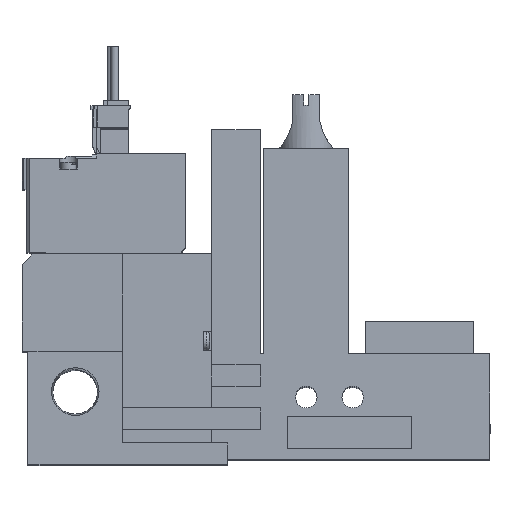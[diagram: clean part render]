
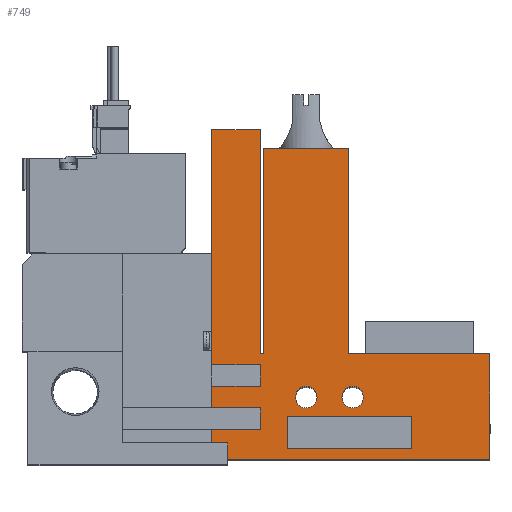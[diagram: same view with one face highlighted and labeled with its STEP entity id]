
A CAD part, top view. The second image highlights one B-rep face of the part: STEP entity #749.
In plain terms, the highlighted planar face has unit normal (0, 0, 1).
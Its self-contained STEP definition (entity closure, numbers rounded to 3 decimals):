
#749=ADVANCED_FACE('',(#1469,#1470,#1471,#1472),#1473,.T.);
#1469=FACE_OUTER_BOUND('',#2520,.T.);
#1470=FACE_BOUND('',#2521,.T.);
#1471=FACE_BOUND('',#2522,.T.);
#1472=FACE_BOUND('',#2523,.T.);
#1473=PLANE('',#2524);
#2520=EDGE_LOOP('',(#5095,#5096,#5097,#5098,#5099,#5100,#5101,#5102,#5103,#5104,#5105,#5106,#5107,#5108,#5109,#5110,#5111,#5112));
#2521=EDGE_LOOP('',(#5113,#5114,#5115,#5116));
#2522=EDGE_LOOP('',(#5117));
#2523=EDGE_LOOP('',(#5118));
#2524=AXIS2_PLACEMENT_3D('',#5119,#5120,#5121);
#5095=ORIENTED_EDGE('',*,*,#7251,.T.);
#5096=ORIENTED_EDGE('',*,*,#7252,.T.);
#5097=ORIENTED_EDGE('',*,*,#7253,.T.);
#5098=ORIENTED_EDGE('',*,*,#7254,.T.);
#5099=ORIENTED_EDGE('',*,*,#7255,.T.);
#5100=ORIENTED_EDGE('',*,*,#7256,.T.);
#5101=ORIENTED_EDGE('',*,*,#7257,.T.);
#5102=ORIENTED_EDGE('',*,*,#7258,.T.);
#5103=ORIENTED_EDGE('',*,*,#7259,.T.);
#5104=ORIENTED_EDGE('',*,*,#7260,.T.);
#5105=ORIENTED_EDGE('',*,*,#7261,.T.);
#5106=ORIENTED_EDGE('',*,*,#7262,.T.);
#5107=ORIENTED_EDGE('',*,*,#7263,.T.);
#5108=ORIENTED_EDGE('',*,*,#7264,.T.);
#5109=ORIENTED_EDGE('',*,*,#7265,.T.);
#5110=ORIENTED_EDGE('',*,*,#7266,.T.);
#5111=ORIENTED_EDGE('',*,*,#7267,.T.);
#5112=ORIENTED_EDGE('',*,*,#7268,.T.);
#5113=ORIENTED_EDGE('',*,*,#7269,.T.);
#5114=ORIENTED_EDGE('',*,*,#7270,.T.);
#5115=ORIENTED_EDGE('',*,*,#7271,.T.);
#5116=ORIENTED_EDGE('',*,*,#7272,.T.);
#5117=ORIENTED_EDGE('',*,*,#7250,.T.);
#5118=ORIENTED_EDGE('',*,*,#7273,.T.);
#5119=CARTESIAN_POINT('',(0.0,0.0,10.0));
#5120=DIRECTION('',(0.0,0.0,1.0));
#5121=DIRECTION('',(1.0,0.0,0.0));
#7250=EDGE_CURVE('',#8786,#8786,#8787,.T.);
#7251=EDGE_CURVE('',#8788,#8789,#8790,.T.);
#7252=EDGE_CURVE('',#8789,#8791,#8792,.T.);
#7253=EDGE_CURVE('',#8791,#8793,#8794,.T.);
#7254=EDGE_CURVE('',#8793,#8795,#8796,.T.);
#7255=EDGE_CURVE('',#8795,#8797,#8798,.T.);
#7256=EDGE_CURVE('',#8797,#8799,#8800,.T.);
#7257=EDGE_CURVE('',#8799,#8801,#8802,.T.);
#7258=EDGE_CURVE('',#8801,#8803,#8804,.T.);
#7259=EDGE_CURVE('',#8803,#8805,#8806,.T.);
#7260=EDGE_CURVE('',#8805,#8807,#8808,.T.);
#7261=EDGE_CURVE('',#8807,#8809,#8810,.T.);
#7262=EDGE_CURVE('',#8809,#8811,#8812,.T.);
#7263=EDGE_CURVE('',#8811,#8813,#8814,.T.);
#7264=EDGE_CURVE('',#8813,#8815,#8816,.T.);
#7265=EDGE_CURVE('',#8815,#8817,#8818,.T.);
#7266=EDGE_CURVE('',#8817,#8819,#8820,.T.);
#7267=EDGE_CURVE('',#8819,#8821,#8822,.T.);
#7268=EDGE_CURVE('',#8821,#8788,#8823,.T.);
#7269=EDGE_CURVE('',#8824,#8825,#8826,.T.);
#7270=EDGE_CURVE('',#8825,#8827,#8828,.T.);
#7271=EDGE_CURVE('',#8827,#8829,#8830,.T.);
#7272=EDGE_CURVE('',#8829,#8824,#8831,.T.);
#7273=EDGE_CURVE('',#8832,#8832,#8833,.T.);
#8786=VERTEX_POINT('',#11277);
#8787=CIRCLE('',#11278,2.0);
#8788=VERTEX_POINT('',#11279);
#8789=VERTEX_POINT('',#11280);
#8790=LINE('',#11281,#11282);
#8791=VERTEX_POINT('',#11283);
#8792=LINE('',#11284,#11285);
#8793=VERTEX_POINT('',#11286);
#8794=LINE('',#11287,#11288);
#8795=VERTEX_POINT('',#11289);
#8796=LINE('',#11290,#11291);
#8797=VERTEX_POINT('',#11292);
#8798=LINE('',#11293,#11294);
#8799=VERTEX_POINT('',#11295);
#8800=LINE('',#11296,#11297);
#8801=VERTEX_POINT('',#11298);
#8802=LINE('',#11299,#11300);
#8803=VERTEX_POINT('',#11301);
#8804=LINE('',#11302,#11303);
#8805=VERTEX_POINT('',#11304);
#8806=LINE('',#11305,#11306);
#8807=VERTEX_POINT('',#11307);
#8808=LINE('',#11308,#11309);
#8809=VERTEX_POINT('',#11310);
#8810=LINE('',#11311,#11312);
#8811=VERTEX_POINT('',#11313);
#8812=LINE('',#11314,#11315);
#8813=VERTEX_POINT('',#11316);
#8814=LINE('',#11317,#11318);
#8815=VERTEX_POINT('',#11319);
#8816=LINE('',#11320,#11321);
#8817=VERTEX_POINT('',#11322);
#8818=LINE('',#11323,#11324);
#8819=VERTEX_POINT('',#11325);
#8820=LINE('',#11326,#11327);
#8821=VERTEX_POINT('',#11328);
#8822=LINE('',#11329,#11330);
#8823=LINE('',#11331,#11332);
#8824=VERTEX_POINT('',#11333);
#8825=VERTEX_POINT('',#11334);
#8826=LINE('',#11335,#11336);
#8827=VERTEX_POINT('',#11337);
#8828=LINE('',#11338,#11339);
#8829=VERTEX_POINT('',#11340);
#8830=LINE('',#11341,#11342);
#8831=LINE('',#11343,#11344);
#8832=VERTEX_POINT('',#11345);
#8833=CIRCLE('',#11346,2.0);
#11277=CARTESIAN_POINT('',(54.6,11.5,10.0));
#11278=AXIS2_PLACEMENT_3D('',#13388,#13389,#13390);
#11279=CARTESIAN_POINT('',(35.1,61.0,10.0));
#11280=CARTESIAN_POINT('',(35.1,17.5,10.0));
#11281=CARTESIAN_POINT('',(35.1,61.0,10.0));
#11282=VECTOR('',#13391,1.0);
#11283=CARTESIAN_POINT('',(44.1,17.5,10.0));
#11284=CARTESIAN_POINT('',(0.0,17.5,10.0));
#11285=VECTOR('',#13392,1.0);
#11286=CARTESIAN_POINT('',(44.1,13.5,10.0));
#11287=CARTESIAN_POINT('',(44.1,0.0,10.0));
#11288=VECTOR('',#13393,1.0);
#11289=CARTESIAN_POINT('',(35.1,13.5,10.0));
#11290=CARTESIAN_POINT('',(0.0,13.5,10.0));
#11291=VECTOR('',#13394,1.0);
#11292=CARTESIAN_POINT('',(35.1,9.5,10.0));
#11293=CARTESIAN_POINT('',(35.1,0.0,10.0));
#11294=VECTOR('',#13395,1.0);
#11295=CARTESIAN_POINT('',(44.1,9.5,10.0));
#11296=CARTESIAN_POINT('',(0.0,9.5,10.0));
#11297=VECTOR('',#13396,1.0);
#11298=CARTESIAN_POINT('',(44.1,5.5,10.0));
#11299=CARTESIAN_POINT('',(44.1,0.0,10.0));
#11300=VECTOR('',#13397,1.0);
#11301=CARTESIAN_POINT('',(35.1,5.5,10.0));
#11302=CARTESIAN_POINT('',(0.0,5.5,10.0));
#11303=VECTOR('',#13398,1.0);
#11304=CARTESIAN_POINT('',(35.1,0.0,10.0));
#11305=CARTESIAN_POINT('',(35.1,0.0,10.0));
#11306=VECTOR('',#13399,1.0);
#11307=CARTESIAN_POINT('',(86.6,0.0,10.0));
#11308=CARTESIAN_POINT('',(18.6,0.0,10.0));
#11309=VECTOR('',#13400,1.0);
#11310=CARTESIAN_POINT('',(86.6,19.5,10.0));
#11311=CARTESIAN_POINT('',(86.6,0.0,10.0));
#11312=VECTOR('',#13401,1.0);
#11313=CARTESIAN_POINT('',(60.45,19.5,10.0));
#11314=CARTESIAN_POINT('',(86.6,19.5,10.0));
#11315=VECTOR('',#13402,1.0);
#11316=CARTESIAN_POINT('',(60.45,57.5,10.0));
#11317=CARTESIAN_POINT('',(60.45,19.5,10.0));
#11318=VECTOR('',#13403,1.0);
#11319=CARTESIAN_POINT('',(44.75,57.5,10.0));
#11320=CARTESIAN_POINT('',(60.45,57.5,10.0));
#11321=VECTOR('',#13404,1.0);
#11322=CARTESIAN_POINT('',(44.75,19.5,10.0));
#11323=CARTESIAN_POINT('',(44.75,57.5,10.0));
#11324=VECTOR('',#13405,1.0);
#11325=CARTESIAN_POINT('',(44.1,19.5,10.0));
#11326=CARTESIAN_POINT('',(44.75,19.5,10.0));
#11327=VECTOR('',#13406,1.0);
#11328=CARTESIAN_POINT('',(44.1,61.0,10.0));
#11329=CARTESIAN_POINT('',(44.1,19.5,10.0));
#11330=VECTOR('',#13407,1.0);
#11331=CARTESIAN_POINT('',(44.1,61.0,10.0));
#11332=VECTOR('',#13408,1.0);
#11333=CARTESIAN_POINT('',(49.1,2.0,10.0));
#11334=CARTESIAN_POINT('',(49.1,8.0,10.0));
#11335=CARTESIAN_POINT('',(49.1,0.0,10.0));
#11336=VECTOR('',#13409,1.0);
#11337=CARTESIAN_POINT('',(72.1,8.0,10.0));
#11338=CARTESIAN_POINT('',(0.0,8.0,10.0));
#11339=VECTOR('',#13410,1.0);
#11340=CARTESIAN_POINT('',(72.1,2.0,10.0));
#11341=CARTESIAN_POINT('',(72.1,0.0,10.0));
#11342=VECTOR('',#13411,1.0);
#11343=CARTESIAN_POINT('',(0.0,2.0,10.0));
#11344=VECTOR('',#13412,1.0);
#11345=CARTESIAN_POINT('',(63.2,11.5,10.0));
#11346=AXIS2_PLACEMENT_3D('',#13413,#13414,#13415);
#13388=CARTESIAN_POINT('',(52.6,11.5,10.0));
#13389=DIRECTION('',(0.0,0.0,-1.0));
#13390=DIRECTION('',(1.0,0.0,0.0));
#13391=DIRECTION('',(0.0,-1.0,0.0));
#13392=DIRECTION('',(1.0,0.0,0.0));
#13393=DIRECTION('',(0.0,-1.0,0.0));
#13394=DIRECTION('',(-1.0,0.0,0.0));
#13395=DIRECTION('',(0.0,-1.0,0.0));
#13396=DIRECTION('',(1.0,0.0,0.0));
#13397=DIRECTION('',(0.0,-1.0,0.0));
#13398=DIRECTION('',(-1.0,0.0,0.0));
#13399=DIRECTION('',(0.0,-1.0,0.0));
#13400=DIRECTION('',(1.0,0.0,0.0));
#13401=DIRECTION('',(0.0,1.0,0.0));
#13402=DIRECTION('',(-1.0,0.0,0.0));
#13403=DIRECTION('',(0.0,1.0,0.0));
#13404=DIRECTION('',(-1.0,0.0,0.0));
#13405=DIRECTION('',(0.0,-1.0,0.0));
#13406=DIRECTION('',(-1.0,0.0,0.0));
#13407=DIRECTION('',(0.0,1.0,0.0));
#13408=DIRECTION('',(-1.0,0.0,0.0));
#13409=DIRECTION('',(0.0,1.0,0.0));
#13410=DIRECTION('',(1.0,0.0,0.0));
#13411=DIRECTION('',(0.0,-1.0,0.0));
#13412=DIRECTION('',(-1.0,0.0,0.0));
#13413=CARTESIAN_POINT('',(61.2,11.5,10.0));
#13414=DIRECTION('',(0.0,0.0,-1.0));
#13415=DIRECTION('',(1.0,0.0,0.0));
